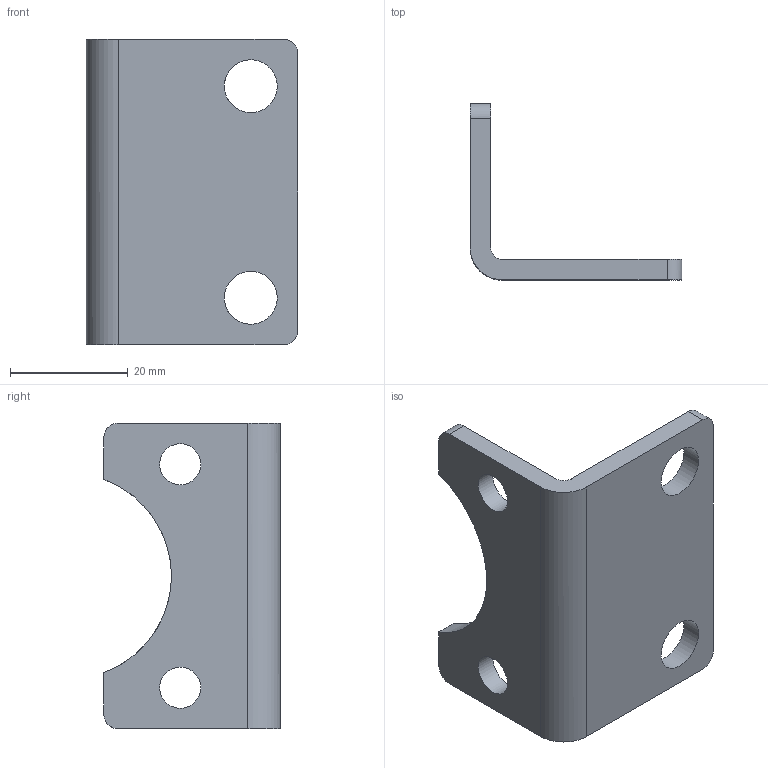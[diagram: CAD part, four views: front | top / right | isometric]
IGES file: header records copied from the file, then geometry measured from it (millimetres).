
Global section: file name: 1325_040_05-1F; native system: Autodesk Inventor 2014; preprocessor: unknown; organization: Pneumax S.p.A.; date: 20161014.140206; units: millimetre
Bounding box: 36 x 30 x 52 mm (x, y, z)
Volume: 9385.4 mm3; surface area: 6524.8 mm2
Topology: 1 solids, 1 shells, 20 faces, 58 edges, 40 vertices
Faces by surface type: bspline 20
